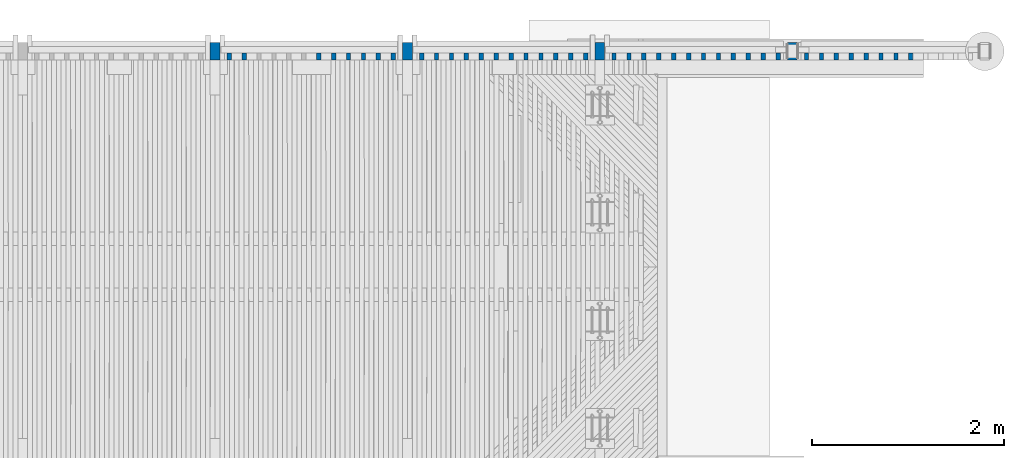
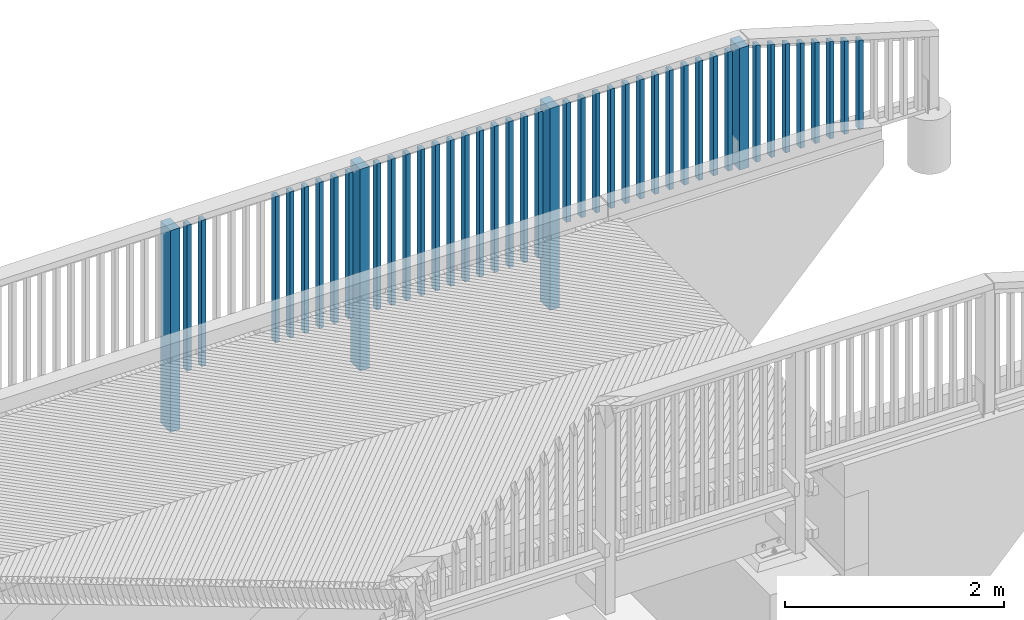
# One storey, part 11 of 52: 44 columns.
"""IFC2X3 building model written with IfcOpenShell, lengths in millimetres."""

from ifc_helpers import new_model, si_unit, frame, origin_with_axes, place, context, subcontext, project, spatial, faceted_brep, material, type_object, element, save


model = new_model("IFC2X3")

# Units and contexts
model_context = context("Model", 3, precision=1e-05, world=origin_with_axes())
body_context = subcontext(model_context, "Body", "Model", "MODEL_VIEW")
ifc_project = project(units=[si_unit("LENGTHUNIT", "METRE", prefix="MILLI"), si_unit("AREAUNIT", "SQUARE_METRE"), si_unit("VOLUMEUNIT", "CUBIC_METRE"), si_unit("MASSUNIT", "GRAM", prefix="KILO"), si_unit("TIMEUNIT", "SECOND"), si_unit("PLANEANGLEUNIT", "RADIAN"), si_unit("SOLIDANGLEUNIT", "STERADIAN"), si_unit("THERMODYNAMICTEMPERATUREUNIT", "DEGREE_CELSIUS"), si_unit("LUMINOUSINTENSITYUNIT", "LUMEN")], contexts=[model_context])

# Site, building, storey
site_placement = place(None, origin_with_axes())
site = spatial("IfcSite", under=ifc_project, at=site_placement, Name="Undefined", CompositionType="ELEMENT")
building_placement = place(site_placement, origin_with_axes())
building = spatial("IfcBuilding", under=site, at=building_placement, Name="Undefined", CompositionType="ELEMENT")
storey_placement = place(building_placement, origin_with_axes())
storey = spatial("IfcBuildingStorey", under=building, at=storey_placement, Name="Undefined", CompositionType="ELEMENT", Elevation=0.0)

# Columns
ifc_material = material(Name="TIMBER/Timber_Undefined")
column_type_1 = type_object("IfcColumnType", Name="180*100", PredefinedType="NOTDEFINED")
column_1_placement = place(storey_placement, frame((17999.9999992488, 4604.98790809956, 3128.37999999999), z_axis=(0.0, -1.0, 0.0), x_axis=(0.0, 0.0, 1.0)))
element("IfcColumn", 1, at=column_1_placement, inside=storey, type_object=column_type_1, material=ifc_material, Name="KAIDEPYLVÄS", ObjectType="180*100", context=body_context, shape_type="Brep", body=[
    faceted_brep([(-5.71000000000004, 50.0, -90.0), (-5.71000000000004, 50.0, 90.0), (1352.87649222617, 50.0, 90.0), (1352.87649222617, 50.0, -90.0), (-5.71000000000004, -50.0, 90.0), (1351.21940355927, -50.0, 90.0), (-5.71000000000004, -50.0, -90.0), (1351.21940355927, -50.0, -90.0)], [[[0, 1, 2, 3]], [[1, 4, 5, 2]], [[4, 6, 7, 5]], [[6, 0, 3, 7]], [[5, 7, 3, 2]], [[6, 4, 1, 0]]]),
])
for number, where, z_axis, x_axis in (
    (2, (16000.0000678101, 4604.98790809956, 2260.26004297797), (0.0, -1.0, 0.0), (0.0, 0.0, 1.0)),
    (3, (14000.0000678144, 4604.98790809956, 2283.46176690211), (0.0, -1.0, 0.0), (0.0, 0.0, 1.0)),
    (4, (12000.0000678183, 4604.98790809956, 2300.03388065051), (0.0, -1.0, 0.0), (0.0, 0.0, 1.0)),
):
    element("IfcColumn", number, at=place(storey_placement, frame(where, z_axis=z_axis, x_axis=x_axis)), inside=storey, type_object=column_type_1, material=ifc_material, Name="KAIDEPYLVÄS", ObjectType="180*100", context=body_context, shape_type="Brep", body=[
        faceted_brep([(0.0, 50.0, -90.0), (0.0, 50.0, 90.0), (2250.0, 50.0, 90.0), (2250.0, 50.0, -90.0), (0.0, -50.0, 90.0), (2250.0, -50.0, 90.0), (0.0, -50.0, -90.0), (2250.0, -50.0, -90.0)], [[[0, 1, 2, 3]], [[1, 4, 5, 2]], [[4, 6, 7, 5]], [[6, 0, 3, 7]], [[5, 7, 3, 2]], [[6, 4, 1, 0]]]),
    ])
column_type_2 = type_object("IfcColumnType", Name="70*45", PredefinedType="NOTDEFINED")
column_2_placement = place(storey_placement, frame((18147.4999992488, 4549.98790809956, 3079.15), z_axis=(0.0, 1.0, 0.0), x_axis=(0.0, 0.0, 1.0)))
element("IfcColumn", 5, at=column_2_placement, inside=storey, type_object=column_type_2, material=ifc_material, Name="BEAM", ObjectType="70*45", context=body_context, shape_type="Brep", body=[
    faceted_brep([(68.7510555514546, 22.5, -35.0), (68.7510555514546, 22.5, 35.0), (1362.51131766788, 22.5, 35.0), (1362.51131766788, 22.5, -35.0), (69.4380529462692, -22.5, 35.0), (1375.94682334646, -22.5, 35.0), (69.4380529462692, -22.5, -35.0), (1375.94682334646, -22.5, -35.0)], [[[0, 1, 2, 3]], [[1, 4, 5, 2]], [[4, 6, 7, 5]], [[6, 0, 3, 7]], [[5, 7, 3, 2]], [[6, 4, 1, 0]]]),
])
column_3_placement = place(storey_placement, frame((18302.4999992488, 4549.98790809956, 3079.15), z_axis=(0.0, 1.0, 0.0), x_axis=(0.0, 0.0, 1.0)))
element("IfcColumn", 6, at=column_3_placement, inside=storey, type_object=column_type_2, material=ifc_material, Name="BEAM", ObjectType="70*45", context=body_context, shape_type="Brep", body=[
    faceted_brep([(66.3847311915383, 22.5, -35.0), (66.3847311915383, 22.5, 35.0), (1316.23346477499, 22.5, 35.0), (1316.23346477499, 22.5, -35.0), (67.0717285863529, -22.5, 35.0), (1329.66897045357, -22.5, 35.0), (67.0717285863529, -22.5, -35.0), (1329.66897045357, -22.5, -35.0)], [[[0, 1, 2, 3]], [[1, 4, 5, 2]], [[4, 6, 7, 5]], [[6, 0, 3, 7]], [[5, 7, 3, 2]], [[6, 4, 1, 0]]]),
])
column_4_placement = place(storey_placement, frame((18457.4999992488, 4549.98790809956, 3079.15), z_axis=(0.0, 1.0, 0.0), x_axis=(0.0, 0.0, 1.0)))
element("IfcColumn", 7, at=column_4_placement, inside=storey, type_object=column_type_2, material=ifc_material, Name="BEAM", ObjectType="70*45", context=body_context, shape_type="Brep", body=[
    faceted_brep([(64.0184068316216, 22.5, -35.0), (64.0184068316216, 22.5, 35.0), (1269.95561188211, 22.5, 35.0), (1269.95561188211, 22.5, -35.0), (64.7054042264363, -22.5, 35.0), (1283.39111756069, -22.5, 35.0), (64.7054042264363, -22.5, -35.0), (1283.39111756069, -22.5, -35.0)], [[[0, 1, 2, 3]], [[1, 4, 5, 2]], [[4, 6, 7, 5]], [[6, 0, 3, 7]], [[5, 7, 3, 2]], [[6, 4, 1, 0]]]),
])
column_5_placement = place(storey_placement, frame((18612.4999992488, 4549.98790809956, 3079.15), z_axis=(0.0, 1.0, 0.0), x_axis=(0.0, 0.0, 1.0)))
element("IfcColumn", 8, at=column_5_placement, inside=storey, type_object=column_type_2, material=ifc_material, Name="BEAM", ObjectType="70*45", context=body_context, shape_type="Brep", body=[
    faceted_brep([(61.6520824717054, 22.5, -35.0), (61.6520824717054, 22.5, 35.0), (1223.67775898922, 22.5, 35.0), (1223.67775898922, 22.5, -35.0), (62.3390798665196, -22.5, 35.0), (1237.1132646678, -22.5, 35.0), (62.3390798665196, -22.5, -35.0), (1237.1132646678, -22.5, -35.0)], [[[0, 1, 2, 3]], [[1, 4, 5, 2]], [[4, 6, 7, 5]], [[6, 0, 3, 7]], [[5, 7, 3, 2]], [[6, 4, 1, 0]]]),
])
column_6_placement = place(storey_placement, frame((18767.4999992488, 4549.98790809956, 3079.15), z_axis=(0.0, 1.0, 0.0), x_axis=(0.0, 0.0, 1.0)))
element("IfcColumn", 9, at=column_6_placement, inside=storey, type_object=column_type_2, material=ifc_material, Name="BEAM", ObjectType="70*45", context=body_context, shape_type="Brep", body=[
    faceted_brep([(59.2857581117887, 22.5, -35.0), (59.2857581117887, 22.5, 35.0), (1177.39990609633, 22.5, 35.0), (1177.39990609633, 22.5, -35.0), (59.9727555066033, -22.5, 35.0), (1190.83541177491, -22.5, 35.0), (59.9727555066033, -22.5, -35.0), (1190.83541177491, -22.5, -35.0)], [[[0, 1, 2, 3]], [[1, 4, 5, 2]], [[4, 6, 7, 5]], [[6, 0, 3, 7]], [[5, 7, 3, 2]], [[6, 4, 1, 0]]]),
])
column_7_placement = place(storey_placement, frame((18922.4999992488, 4549.98790809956, 3079.15), z_axis=(0.0, 1.0, 0.0), x_axis=(0.0, 0.0, 1.0)))
element("IfcColumn", 10, at=column_7_placement, inside=storey, type_object=column_type_2, material=ifc_material, Name="BEAM", ObjectType="70*45", context=body_context, shape_type="Brep", body=[
    faceted_brep([(56.9194337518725, 22.5, -35.0), (56.9194337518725, 22.5, 35.0), (1131.12205320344, 22.5, 35.0), (1131.12205320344, 22.5, -35.0), (57.6064311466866, -22.5, 35.0), (1144.55755888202, -22.5, 35.0), (57.6064311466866, -22.5, -35.0), (1144.55755888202, -22.5, -35.0)], [[[0, 1, 2, 3]], [[1, 4, 5, 2]], [[4, 6, 7, 5]], [[6, 0, 3, 7]], [[5, 7, 3, 2]], [[6, 4, 1, 0]]]),
])
column_8_placement = place(storey_placement, frame((19077.4999992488, 4549.98790809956, 3079.15), z_axis=(0.0, 1.0, 0.0), x_axis=(0.0, 0.0, 1.0)))
element("IfcColumn", 11, at=column_8_placement, inside=storey, type_object=column_type_2, material=ifc_material, Name="BEAM", ObjectType="70*45", context=body_context, shape_type="Brep", body=[
    faceted_brep([(54.5531093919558, 22.5, -35.0), (54.5531093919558, 22.5, 35.0), (1084.84420031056, 22.5, 35.0), (1084.84420031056, 22.5, -35.0), (55.2401067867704, -22.5, 35.0), (1098.27970598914, -22.5, 35.0), (55.2401067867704, -22.5, -35.0), (1098.27970598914, -22.5, -35.0)], [[[0, 1, 2, 3]], [[1, 4, 5, 2]], [[4, 6, 7, 5]], [[6, 0, 3, 7]], [[5, 7, 3, 2]], [[6, 4, 1, 0]]]),
])
column_9_placement = place(storey_placement, frame((19232.4999992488, 4549.98790809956, 3079.15), z_axis=(0.0, 1.0, 0.0), x_axis=(0.0, 0.0, 1.0)))
element("IfcColumn", 12, at=column_9_placement, inside=storey, type_object=column_type_2, material=ifc_material, Name="BEAM", ObjectType="70*45", context=body_context, shape_type="Brep", body=[
    faceted_brep([(52.1867850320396, 22.5, -35.0), (52.1867850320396, 22.5, 35.0), (1038.56634741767, 22.5, 35.0), (1038.56634741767, 22.5, -35.0), (52.8737824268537, -22.5, 35.0), (1052.00185309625, -22.5, 35.0), (52.8737824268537, -22.5, -35.0), (1052.00185309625, -22.5, -35.0)], [[[0, 1, 2, 3]], [[1, 4, 5, 2]], [[4, 6, 7, 5]], [[6, 0, 3, 7]], [[5, 7, 3, 2]], [[6, 4, 1, 0]]]),
])
column_10_placement = place(storey_placement, frame((16147.4999992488, 4549.98790809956, 3109.68000000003), z_axis=(0.0, 1.0, 0.0), x_axis=(0.0, 0.0, 1.0)))
element("IfcColumn", 13, at=column_10_placement, inside=storey, type_object=column_type_2, material=ifc_material, Name="BEAM", ObjectType="70*45", context=body_context, shape_type="Brep", body=[
    faceted_brep([(68.7510555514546, 22.5, -35.0), (68.7510555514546, 22.5, 35.0), (1398.75105555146, 22.5, 35.0), (1398.75105555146, 22.5, -35.0), (69.4380529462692, -22.5, 35.0), (1399.43805294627, -22.5, 35.0), (69.4380529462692, -22.5, -35.0), (1399.43805294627, -22.5, -35.0)], [[[0, 1, 2, 3]], [[1, 4, 5, 2]], [[4, 6, 7, 5]], [[6, 0, 3, 7]], [[5, 7, 3, 2]], [[6, 4, 1, 0]]]),
])
column_11_placement = place(storey_placement, frame((16302.4999992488, 4549.98790809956, 3109.68000000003), z_axis=(0.0, 1.0, 0.0), x_axis=(0.0, 0.0, 1.0)))
element("IfcColumn", 14, at=column_11_placement, inside=storey, type_object=column_type_2, material=ifc_material, Name="BEAM", ObjectType="70*45", context=body_context, shape_type="Brep", body=[
    faceted_brep([(66.3847311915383, 22.5, -35.0), (66.3847311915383, 22.5, 35.0), (1396.38473119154, 22.5, 35.0), (1396.38473119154, 22.5, -35.0), (67.0717285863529, -22.5, 35.0), (1397.07172858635, -22.5, 35.0), (67.0717285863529, -22.5, -35.0), (1397.07172858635, -22.5, -35.0)], [[[0, 1, 2, 3]], [[1, 4, 5, 2]], [[4, 6, 7, 5]], [[6, 0, 3, 7]], [[5, 7, 3, 2]], [[6, 4, 1, 0]]]),
])
column_12_placement = place(storey_placement, frame((16457.4999992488, 4549.98790809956, 3109.68000000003), z_axis=(0.0, 1.0, 0.0), x_axis=(0.0, 0.0, 1.0)))
element("IfcColumn", 15, at=column_12_placement, inside=storey, type_object=column_type_2, material=ifc_material, Name="BEAM", ObjectType="70*45", context=body_context, shape_type="Brep", body=[
    faceted_brep([(64.0184068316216, 22.5, -35.0), (64.0184068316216, 22.5, 35.0), (1394.01840683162, 22.5, 35.0), (1394.01840683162, 22.5, -35.0), (64.7054042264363, -22.5, 35.0), (1394.70540422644, -22.5, 35.0), (64.7054042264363, -22.5, -35.0), (1394.70540422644, -22.5, -35.0)], [[[0, 1, 2, 3]], [[1, 4, 5, 2]], [[4, 6, 7, 5]], [[6, 0, 3, 7]], [[5, 7, 3, 2]], [[6, 4, 1, 0]]]),
])
column_13_placement = place(storey_placement, frame((16612.4999992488, 4549.98790809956, 3109.68000000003), z_axis=(0.0, 1.0, 0.0), x_axis=(0.0, 0.0, 1.0)))
element("IfcColumn", 16, at=column_13_placement, inside=storey, type_object=column_type_2, material=ifc_material, Name="BEAM", ObjectType="70*45", context=body_context, shape_type="Brep", body=[
    faceted_brep([(61.6520824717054, 22.5, -35.0), (61.6520824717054, 22.5, 35.0), (1391.65208247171, 22.5, 35.0), (1391.65208247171, 22.5, -35.0), (62.3390798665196, -22.5, 35.0), (1392.33907986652, -22.5, 35.0), (62.3390798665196, -22.5, -35.0), (1392.33907986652, -22.5, -35.0)], [[[0, 1, 2, 3]], [[1, 4, 5, 2]], [[4, 6, 7, 5]], [[6, 0, 3, 7]], [[5, 7, 3, 2]], [[6, 4, 1, 0]]]),
])
column_14_placement = place(storey_placement, frame((16767.4999992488, 4549.98790809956, 3109.68000000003), z_axis=(0.0, 1.0, 0.0), x_axis=(0.0, 0.0, 1.0)))
element("IfcColumn", 17, at=column_14_placement, inside=storey, type_object=column_type_2, material=ifc_material, Name="BEAM", ObjectType="70*45", context=body_context, shape_type="Brep", body=[
    faceted_brep([(59.2857581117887, 22.5, -35.0), (59.2857581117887, 22.5, 35.0), (1389.28575811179, 22.5, 35.0), (1389.28575811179, 22.5, -35.0), (59.9727555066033, -22.5, 35.0), (1389.97275550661, -22.5, 35.0), (59.9727555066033, -22.5, -35.0), (1389.97275550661, -22.5, -35.0)], [[[0, 1, 2, 3]], [[1, 4, 5, 2]], [[4, 6, 7, 5]], [[6, 0, 3, 7]], [[5, 7, 3, 2]], [[6, 4, 1, 0]]]),
])
column_15_placement = place(storey_placement, frame((16922.4999992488, 4549.98790809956, 3109.68000000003), z_axis=(0.0, 1.0, 0.0), x_axis=(0.0, 0.0, 1.0)))
element("IfcColumn", 18, at=column_15_placement, inside=storey, type_object=column_type_2, material=ifc_material, Name="BEAM", ObjectType="70*45", context=body_context, shape_type="Brep", body=[
    faceted_brep([(56.9194337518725, 22.5, -35.0), (56.9194337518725, 22.5, 35.0), (1386.91943375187, 22.5, 35.0), (1386.91943375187, 22.5, -35.0), (57.6064311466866, -22.5, 35.0), (1387.60643114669, -22.5, 35.0), (57.6064311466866, -22.5, -35.0), (1387.60643114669, -22.5, -35.0)], [[[0, 1, 2, 3]], [[1, 4, 5, 2]], [[4, 6, 7, 5]], [[6, 0, 3, 7]], [[5, 7, 3, 2]], [[6, 4, 1, 0]]]),
])
column_16_placement = place(storey_placement, frame((17077.4999992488, 4549.98790809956, 3109.68000000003), z_axis=(0.0, 1.0, 0.0), x_axis=(0.0, 0.0, 1.0)))
element("IfcColumn", 19, at=column_16_placement, inside=storey, type_object=column_type_2, material=ifc_material, Name="BEAM", ObjectType="70*45", context=body_context, shape_type="Brep", body=[
    faceted_brep([(54.5531093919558, 22.5, -35.0), (54.5531093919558, 22.5, 35.0), (1384.55310939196, 22.5, 35.0), (1384.55310939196, 22.5, -35.0), (55.2401067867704, -22.5, 35.0), (1385.24010678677, -22.5, 35.0), (55.2401067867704, -22.5, -35.0), (1385.24010678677, -22.5, -35.0)], [[[0, 1, 2, 3]], [[1, 4, 5, 2]], [[4, 6, 7, 5]], [[6, 0, 3, 7]], [[5, 7, 3, 2]], [[6, 4, 1, 0]]]),
])
column_17_placement = place(storey_placement, frame((17232.4999992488, 4549.98790809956, 3109.68000000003), z_axis=(0.0, 1.0, 0.0), x_axis=(0.0, 0.0, 1.0)))
element("IfcColumn", 20, at=column_17_placement, inside=storey, type_object=column_type_2, material=ifc_material, Name="BEAM", ObjectType="70*45", context=body_context, shape_type="Brep", body=[
    faceted_brep([(52.1867850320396, 22.5, -35.0), (52.1867850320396, 22.5, 35.0), (1382.18678503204, 22.5, 35.0), (1382.18678503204, 22.5, -35.0), (52.8737824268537, -22.5, 35.0), (1382.87378242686, -22.5, 35.0), (52.8737824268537, -22.5, -35.0), (1382.87378242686, -22.5, -35.0)], [[[0, 1, 2, 3]], [[1, 4, 5, 2]], [[4, 6, 7, 5]], [[6, 0, 3, 7]], [[5, 7, 3, 2]], [[6, 4, 1, 0]]]),
])
column_18_placement = place(storey_placement, frame((17387.4999992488, 4549.98790809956, 3109.68000000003), z_axis=(0.0, 1.0, 0.0), x_axis=(0.0, 0.0, 1.0)))
element("IfcColumn", 21, at=column_18_placement, inside=storey, type_object=column_type_2, material=ifc_material, Name="BEAM", ObjectType="70*45", context=body_context, shape_type="Brep", body=[
    faceted_brep([(49.8204606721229, 22.5, -35.0), (49.8204606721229, 22.5, 35.0), (1379.82046067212, 22.5, 35.0), (1379.82046067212, 22.5, -35.0), (50.5074580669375, -22.5, 35.0), (1380.50745806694, -22.5, 35.0), (50.5074580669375, -22.5, -35.0), (1380.50745806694, -22.5, -35.0)], [[[0, 1, 2, 3]], [[1, 4, 5, 2]], [[4, 6, 7, 5]], [[6, 0, 3, 7]], [[5, 7, 3, 2]], [[6, 4, 1, 0]]]),
])
column_19_placement = place(storey_placement, frame((17542.4999992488, 4549.98790809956, 3109.68000000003), z_axis=(0.0, 1.0, 0.0), x_axis=(0.0, 0.0, 1.0)))
element("IfcColumn", 22, at=column_19_placement, inside=storey, type_object=column_type_2, material=ifc_material, Name="BEAM", ObjectType="70*45", context=body_context, shape_type="Brep", body=[
    faceted_brep([(47.4541363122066, 22.5, -35.0), (47.4541363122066, 22.5, 35.0), (1377.45413631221, 22.5, 35.0), (1377.45413631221, 22.5, -35.0), (48.1411337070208, -22.5, 35.0), (1378.14113370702, -22.5, 35.0), (48.1411337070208, -22.5, -35.0), (1378.14113370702, -22.5, -35.0)], [[[0, 1, 2, 3]], [[1, 4, 5, 2]], [[4, 6, 7, 5]], [[6, 0, 3, 7]], [[5, 7, 3, 2]], [[6, 4, 1, 0]]]),
])
column_20_placement = place(storey_placement, frame((17697.4999992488, 4549.98790809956, 3109.68000000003), z_axis=(0.0, 1.0, 0.0), x_axis=(0.0, 0.0, 1.0)))
element("IfcColumn", 23, at=column_20_placement, inside=storey, type_object=column_type_2, material=ifc_material, Name="BEAM", ObjectType="70*45", context=body_context, shape_type="Brep", body=[
    faceted_brep([(45.0878119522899, 22.5, -35.0), (45.0878119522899, 22.5, 35.0), (1375.08781195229, 22.5, 35.0), (1375.08781195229, 22.5, -35.0), (45.7748093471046, -22.5, 35.0), (1375.77480934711, -22.5, 35.0), (45.7748093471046, -22.5, -35.0), (1375.77480934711, -22.5, -35.0)], [[[0, 1, 2, 3]], [[1, 4, 5, 2]], [[4, 6, 7, 5]], [[6, 0, 3, 7]], [[5, 7, 3, 2]], [[6, 4, 1, 0]]]),
])
column_21_placement = place(storey_placement, frame((17852.4999992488, 4549.98790809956, 3109.68000000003), z_axis=(0.0, 1.0, 0.0), x_axis=(0.0, 0.0, 1.0)))
element("IfcColumn", 24, at=column_21_placement, inside=storey, type_object=column_type_2, material=ifc_material, Name="BEAM", ObjectType="70*45", context=body_context, shape_type="Brep", body=[
    faceted_brep([(42.7214875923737, 22.5, -35.0), (42.7214875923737, 22.5, 35.0), (1372.72148759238, 22.5, 35.0), (1372.72148759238, 22.5, -35.0), (43.4084849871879, -22.5, 35.0), (1373.40848498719, -22.5, 35.0), (43.4084849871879, -22.5, -35.0), (1373.40848498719, -22.5, -35.0)], [[[0, 1, 2, 3]], [[1, 4, 5, 2]], [[4, 6, 7, 5]], [[6, 0, 3, 7]], [[5, 7, 3, 2]], [[6, 4, 1, 0]]]),
])
column_22_placement = place(storey_placement, frame((15852.5000007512, 4549.98790809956, 3109.68000000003), z_axis=(0.0, 1.0, 0.0), x_axis=(0.0, 0.0, 1.0)))
element("IfcColumn", 25, at=column_22_placement, inside=storey, type_object=column_type_2, material=ifc_material, Name="BEAM", ObjectType="70*45", context=body_context, shape_type="Brep", body=[
    faceted_brep([(-228.509317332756, 22.5, -35.0), (-228.509317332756, 22.5, 35.0), (1401.49590164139, 22.5, 35.0), (1401.49590164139, 22.5, -35.0), (-227.959802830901, -22.5, 35.0), (1402.04541614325, -22.5, 35.0), (-227.959802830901, -22.5, -35.0), (1402.04541614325, -22.5, -35.0)], [[[0, 1, 2, 3]], [[1, 4, 5, 2]], [[4, 6, 7, 5]], [[6, 0, 3, 7]], [[5, 7, 3, 2]], [[6, 4, 1, 0]]]),
])
column_23_placement = place(storey_placement, frame((15697.5000007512, 4549.98790809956, 3109.68000000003), z_axis=(0.0, 1.0, 0.0), x_axis=(0.0, 0.0, 1.0)))
element("IfcColumn", 26, at=column_23_placement, inside=storey, type_object=column_type_2, material=ifc_material, Name="BEAM", ObjectType="70*45", context=body_context, shape_type="Brep", body=[
    faceted_brep([(-226.616545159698, 22.5, -35.0), (-226.616545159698, 22.5, 35.0), (1403.38867381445, 22.5, 35.0), (1403.38867381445, 22.5, -35.0), (-226.067030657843, -22.5, 35.0), (1403.93818831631, -22.5, 35.0), (-226.067030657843, -22.5, -35.0), (1403.93818831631, -22.5, -35.0)], [[[0, 1, 2, 3]], [[1, 4, 5, 2]], [[4, 6, 7, 5]], [[6, 0, 3, 7]], [[5, 7, 3, 2]], [[6, 4, 1, 0]]]),
])
column_24_placement = place(storey_placement, frame((15542.5000007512, 4549.98790809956, 3109.68000000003), z_axis=(0.0, 1.0, 0.0), x_axis=(0.0, 0.0, 1.0)))
element("IfcColumn", 27, at=column_24_placement, inside=storey, type_object=column_type_2, material=ifc_material, Name="BEAM", ObjectType="70*45", context=body_context, shape_type="Brep", body=[
    faceted_brep([(-224.72377298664, 22.5, -35.0), (-224.72377298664, 22.5, 35.0), (1405.28144598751, 22.5, 35.0), (1405.28144598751, 22.5, -35.0), (-224.174258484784, -22.5, 35.0), (1405.83096048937, -22.5, 35.0), (-224.174258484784, -22.5, -35.0), (1405.83096048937, -22.5, -35.0)], [[[0, 1, 2, 3]], [[1, 4, 5, 2]], [[4, 6, 7, 5]], [[6, 0, 3, 7]], [[5, 7, 3, 2]], [[6, 4, 1, 0]]]),
])
column_25_placement = place(storey_placement, frame((15387.5000007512, 4549.98790809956, 3109.68000000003), z_axis=(0.0, 1.0, 0.0), x_axis=(0.0, 0.0, 1.0)))
element("IfcColumn", 28, at=column_25_placement, inside=storey, type_object=column_type_2, material=ifc_material, Name="BEAM", ObjectType="70*45", context=body_context, shape_type="Brep", body=[
    faceted_brep([(-222.831000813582, 22.5, -35.0), (-222.831000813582, 22.5, 35.0), (1407.17421816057, 22.5, 35.0), (1407.17421816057, 22.5, -35.0), (-222.281486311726, -22.5, 35.0), (1407.72373266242, -22.5, 35.0), (-222.281486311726, -22.5, -35.0), (1407.72373266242, -22.5, -35.0)], [[[0, 1, 2, 3]], [[1, 4, 5, 2]], [[4, 6, 7, 5]], [[6, 0, 3, 7]], [[5, 7, 3, 2]], [[6, 4, 1, 0]]]),
])
column_26_placement = place(storey_placement, frame((15232.5000007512, 4549.98790809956, 3109.68000000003), z_axis=(0.0, 1.0, 0.0), x_axis=(0.0, 0.0, 1.0)))
element("IfcColumn", 29, at=column_26_placement, inside=storey, type_object=column_type_2, material=ifc_material, Name="BEAM", ObjectType="70*45", context=body_context, shape_type="Brep", body=[
    faceted_brep([(-220.938228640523, 22.5, -35.0), (-220.938228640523, 22.5, 35.0), (1409.06699033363, 22.5, 35.0), (1409.06699033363, 22.5, -35.0), (-220.388714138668, -22.5, 35.0), (1409.61650483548, -22.5, 35.0), (-220.388714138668, -22.5, -35.0), (1409.61650483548, -22.5, -35.0)], [[[0, 1, 2, 3]], [[1, 4, 5, 2]], [[4, 6, 7, 5]], [[6, 0, 3, 7]], [[5, 7, 3, 2]], [[6, 4, 1, 0]]]),
])
column_27_placement = place(storey_placement, frame((15077.5000007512, 4549.98790809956, 3109.68000000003), z_axis=(0.0, 1.0, 0.0), x_axis=(0.0, 0.0, 1.0)))
element("IfcColumn", 30, at=column_27_placement, inside=storey, type_object=column_type_2, material=ifc_material, Name="BEAM", ObjectType="70*45", context=body_context, shape_type="Brep", body=[
    faceted_brep([(-219.045456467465, 22.5, -35.0), (-219.045456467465, 22.5, 35.0), (1410.95976250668, 22.5, 35.0), (1410.95976250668, 22.5, -35.0), (-218.495941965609, -22.5, 35.0), (1411.50927700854, -22.5, 35.0), (-218.495941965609, -22.5, -35.0), (1411.50927700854, -22.5, -35.0)], [[[0, 1, 2, 3]], [[1, 4, 5, 2]], [[4, 6, 7, 5]], [[6, 0, 3, 7]], [[5, 7, 3, 2]], [[6, 4, 1, 0]]]),
])
column_28_placement = place(storey_placement, frame((14922.5000007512, 4549.98790809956, 3109.68000000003), z_axis=(0.0, 1.0, 0.0), x_axis=(0.0, 0.0, 1.0)))
element("IfcColumn", 31, at=column_28_placement, inside=storey, type_object=column_type_2, material=ifc_material, Name="BEAM", ObjectType="70*45", context=body_context, shape_type="Brep", body=[
    faceted_brep([(-217.152684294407, 22.5, -35.0), (-217.152684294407, 22.5, 35.0), (1412.85253467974, 22.5, 35.0), (1412.85253467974, 22.5, -35.0), (-216.603169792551, -22.5, 35.0), (1413.4020491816, -22.5, 35.0), (-216.603169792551, -22.5, -35.0), (1413.4020491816, -22.5, -35.0)], [[[0, 1, 2, 3]], [[1, 4, 5, 2]], [[4, 6, 7, 5]], [[6, 0, 3, 7]], [[5, 7, 3, 2]], [[6, 4, 1, 0]]]),
])
column_29_placement = place(storey_placement, frame((14767.5000007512, 4549.98790809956, 3109.68000000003), z_axis=(0.0, 1.0, 0.0), x_axis=(0.0, 0.0, 1.0)))
element("IfcColumn", 32, at=column_29_placement, inside=storey, type_object=column_type_2, material=ifc_material, Name="BEAM", ObjectType="70*45", context=body_context, shape_type="Brep", body=[
    faceted_brep([(-215.259912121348, 22.5, -35.0), (-215.259912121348, 22.5, 35.0), (1414.7453068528, 22.5, 35.0), (1414.7453068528, 22.5, -35.0), (-214.710397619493, -22.5, 35.0), (1415.29482135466, -22.5, 35.0), (-214.710397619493, -22.5, -35.0), (1415.29482135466, -22.5, -35.0)], [[[0, 1, 2, 3]], [[1, 4, 5, 2]], [[4, 6, 7, 5]], [[6, 0, 3, 7]], [[5, 7, 3, 2]], [[6, 4, 1, 0]]]),
])
column_30_placement = place(storey_placement, frame((14612.5000007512, 4549.98790809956, 3109.68000000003), z_axis=(0.0, 1.0, 0.0), x_axis=(0.0, 0.0, 1.0)))
element("IfcColumn", 33, at=column_30_placement, inside=storey, type_object=column_type_2, material=ifc_material, Name="BEAM", ObjectType="70*45", context=body_context, shape_type="Brep", body=[
    faceted_brep([(-213.36713994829, 22.5, -35.0), (-213.36713994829, 22.5, 35.0), (1416.63807902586, 22.5, 35.0), (1416.63807902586, 22.5, -35.0), (-212.817625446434, -22.5, 35.0), (1417.18759352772, -22.5, 35.0), (-212.817625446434, -22.5, -35.0), (1417.18759352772, -22.5, -35.0)], [[[0, 1, 2, 3]], [[1, 4, 5, 2]], [[4, 6, 7, 5]], [[6, 0, 3, 7]], [[5, 7, 3, 2]], [[6, 4, 1, 0]]]),
])
column_31_placement = place(storey_placement, frame((14457.5000007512, 4549.98790809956, 3109.68000000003), z_axis=(0.0, 1.0, 0.0), x_axis=(0.0, 0.0, 1.0)))
element("IfcColumn", 34, at=column_31_placement, inside=storey, type_object=column_type_2, material=ifc_material, Name="BEAM", ObjectType="70*45", context=body_context, shape_type="Brep", body=[
    faceted_brep([(-211.474367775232, 22.5, -35.0), (-211.474367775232, 22.5, 35.0), (1418.53085119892, 22.5, 35.0), (1418.53085119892, 22.5, -35.0), (-210.924853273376, -22.5, 35.0), (1419.08036570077, -22.5, 35.0), (-210.924853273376, -22.5, -35.0), (1419.08036570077, -22.5, -35.0)], [[[0, 1, 2, 3]], [[1, 4, 5, 2]], [[4, 6, 7, 5]], [[6, 0, 3, 7]], [[5, 7, 3, 2]], [[6, 4, 1, 0]]]),
])
column_32_placement = place(storey_placement, frame((14302.5000007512, 4549.98790809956, 3109.68000000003), z_axis=(0.0, 1.0, 0.0), x_axis=(0.0, 0.0, 1.0)))
element("IfcColumn", 35, at=column_32_placement, inside=storey, type_object=column_type_2, material=ifc_material, Name="BEAM", ObjectType="70*45", context=body_context, shape_type="Brep", body=[
    faceted_brep([(-209.581595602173, 22.5, -35.0), (-209.581595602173, 22.5, 35.0), (1420.42362337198, 22.5, 35.0), (1420.42362337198, 22.5, -35.0), (-209.032081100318, -22.5, 35.0), (1420.97313787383, -22.5, 35.0), (-209.032081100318, -22.5, -35.0), (1420.97313787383, -22.5, -35.0)], [[[0, 1, 2, 3]], [[1, 4, 5, 2]], [[4, 6, 7, 5]], [[6, 0, 3, 7]], [[5, 7, 3, 2]], [[6, 4, 1, 0]]]),
])
column_33_placement = place(storey_placement, frame((14147.5000007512, 4549.98790809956, 3109.68000000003), z_axis=(0.0, 1.0, 0.0), x_axis=(0.0, 0.0, 1.0)))
element("IfcColumn", 36, at=column_33_placement, inside=storey, type_object=column_type_2, material=ifc_material, Name="BEAM", ObjectType="70*45", context=body_context, shape_type="Brep", body=[
    faceted_brep([(-207.688823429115, 22.5, -35.0), (-207.688823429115, 22.5, 35.0), (1422.31639554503, 22.5, 35.0), (1422.31639554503, 22.5, -35.0), (-207.13930892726, -22.5, 35.0), (1422.86591004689, -22.5, 35.0), (-207.13930892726, -22.5, -35.0), (1422.86591004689, -22.5, -35.0)], [[[0, 1, 2, 3]], [[1, 4, 5, 2]], [[4, 6, 7, 5]], [[6, 0, 3, 7]], [[5, 7, 3, 2]], [[6, 4, 1, 0]]]),
])
column_34_placement = place(storey_placement, frame((13852.5000007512, 4549.98790809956, 3109.68000000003), z_axis=(0.0, 1.0, 0.0), x_axis=(0.0, 0.0, 1.0)))
element("IfcColumn", 37, at=column_34_placement, inside=storey, type_object=column_type_2, material=ifc_material, Name="BEAM", ObjectType="70*45", context=body_context, shape_type="Brep", body=[
    faceted_brep([(-205.566732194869, 22.5, -35.0), (-205.566732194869, 22.5, 35.0), (1424.43593041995, 22.5, 35.0), (1424.43593041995, 22.5, -35.0), (-205.174234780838, -22.5, 35.0), (1424.82842783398, -22.5, 35.0), (-205.174234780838, -22.5, -35.0), (1424.82842783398, -22.5, -35.0)], [[[0, 1, 2, 3]], [[1, 4, 5, 2]], [[4, 6, 7, 5]], [[6, 0, 3, 7]], [[5, 7, 3, 2]], [[6, 4, 1, 0]]]),
])
column_35_placement = place(storey_placement, frame((13697.5000007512, 4549.98790809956, 3109.68000000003), z_axis=(0.0, 1.0, 0.0), x_axis=(0.0, 0.0, 1.0)))
element("IfcColumn", 38, at=column_35_placement, inside=storey, type_object=column_type_2, material=ifc_material, Name="BEAM", ObjectType="70*45", context=body_context, shape_type="Brep", body=[
    faceted_brep([(-204.214796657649, 22.5, -35.0), (-204.214796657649, 22.5, 35.0), (1425.78786595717, 22.5, 35.0), (1425.78786595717, 22.5, -35.0), (-203.822299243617, -22.5, 35.0), (1426.1803633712, -22.5, 35.0), (-203.822299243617, -22.5, -35.0), (1426.1803633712, -22.5, -35.0)], [[[0, 1, 2, 3]], [[1, 4, 5, 2]], [[4, 6, 7, 5]], [[6, 0, 3, 7]], [[5, 7, 3, 2]], [[6, 4, 1, 0]]]),
])
column_36_placement = place(storey_placement, frame((13542.5000007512, 4549.98790809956, 3109.68000000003), z_axis=(0.0, 1.0, 0.0), x_axis=(0.0, 0.0, 1.0)))
element("IfcColumn", 39, at=column_36_placement, inside=storey, type_object=column_type_2, material=ifc_material, Name="BEAM", ObjectType="70*45", context=body_context, shape_type="Brep", body=[
    faceted_brep([(-202.862861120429, 22.5, -35.0), (-202.862861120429, 22.5, 35.0), (1427.13980149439, 22.5, 35.0), (1427.13980149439, 22.5, -35.0), (-202.470363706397, -22.5, 35.0), (1427.53229890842, -22.5, 35.0), (-202.470363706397, -22.5, -35.0), (1427.53229890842, -22.5, -35.0)], [[[0, 1, 2, 3]], [[1, 4, 5, 2]], [[4, 6, 7, 5]], [[6, 0, 3, 7]], [[5, 7, 3, 2]], [[6, 4, 1, 0]]]),
])
column_37_placement = place(storey_placement, frame((13387.5000007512, 4549.98790809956, 3109.68000000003), z_axis=(0.0, 1.0, 0.0), x_axis=(0.0, 0.0, 1.0)))
element("IfcColumn", 40, at=column_37_placement, inside=storey, type_object=column_type_2, material=ifc_material, Name="BEAM", ObjectType="70*45", context=body_context, shape_type="Brep", body=[
    faceted_brep([(-201.510925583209, 22.5, -35.0), (-201.510925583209, 22.5, 35.0), (1428.49173703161, 22.5, 35.0), (1428.49173703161, 22.5, -35.0), (-201.118428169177, -22.5, 35.0), (1428.88423444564, -22.5, 35.0), (-201.118428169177, -22.5, -35.0), (1428.88423444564, -22.5, -35.0)], [[[0, 1, 2, 3]], [[1, 4, 5, 2]], [[4, 6, 7, 5]], [[6, 0, 3, 7]], [[5, 7, 3, 2]], [[6, 4, 1, 0]]]),
])
column_38_placement = place(storey_placement, frame((13232.5000007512, 4549.98790809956, 3109.68000000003), z_axis=(0.0, 1.0, 0.0), x_axis=(0.0, 0.0, 1.0)))
element("IfcColumn", 41, at=column_38_placement, inside=storey, type_object=column_type_2, material=ifc_material, Name="BEAM", ObjectType="70*45", context=body_context, shape_type="Brep", body=[
    faceted_brep([(-200.158990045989, 22.5, -35.0), (-200.158990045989, 22.5, 35.0), (1429.84367256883, 22.5, 35.0), (1429.84367256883, 22.5, -35.0), (-199.766492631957, -22.5, 35.0), (1430.23616998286, -22.5, 35.0), (-199.766492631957, -22.5, -35.0), (1430.23616998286, -22.5, -35.0)], [[[0, 1, 2, 3]], [[1, 4, 5, 2]], [[4, 6, 7, 5]], [[6, 0, 3, 7]], [[5, 7, 3, 2]], [[6, 4, 1, 0]]]),
])
column_39_placement = place(storey_placement, frame((13077.5000007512, 4549.98790809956, 3109.68000000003), z_axis=(0.0, 1.0, 0.0), x_axis=(0.0, 0.0, 1.0)))
element("IfcColumn", 42, at=column_39_placement, inside=storey, type_object=column_type_2, material=ifc_material, Name="BEAM", ObjectType="70*45", context=body_context, shape_type="Brep", body=[
    faceted_brep([(-198.807054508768, 22.5, -35.0), (-198.807054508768, 22.5, 35.0), (1431.19560810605, 22.5, 35.0), (1431.19560810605, 22.5, -35.0), (-198.414557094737, -22.5, 35.0), (1431.58810552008, -22.5, 35.0), (-198.414557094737, -22.5, -35.0), (1431.58810552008, -22.5, -35.0)], [[[0, 1, 2, 3]], [[1, 4, 5, 2]], [[4, 6, 7, 5]], [[6, 0, 3, 7]], [[5, 7, 3, 2]], [[6, 4, 1, 0]]]),
])
column_40_placement = place(storey_placement, frame((12302.5000007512, 4549.98790809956, 3109.68000000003), z_axis=(0.0, 1.0, 0.0), x_axis=(0.0, 0.0, 1.0)))
element("IfcColumn", 43, at=column_40_placement, inside=storey, type_object=column_type_2, material=ifc_material, Name="BEAM", ObjectType="70*45", context=body_context, shape_type="Brep", body=[
    faceted_brep([(-192.047376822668, 22.5, -35.0), (-192.047376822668, 22.5, 35.0), (1437.95528579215, 22.5, 35.0), (1437.95528579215, 22.5, -35.0), (-191.654879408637, -22.5, 35.0), (1438.34778320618, -22.5, 35.0), (-191.654879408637, -22.5, -35.0), (1438.34778320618, -22.5, -35.0)], [[[0, 1, 2, 3]], [[1, 4, 5, 2]], [[4, 6, 7, 5]], [[6, 0, 3, 7]], [[5, 7, 3, 2]], [[6, 4, 1, 0]]]),
])
column_41_placement = place(storey_placement, frame((12147.5000007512, 4549.98790809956, 3109.68000000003), z_axis=(0.0, 1.0, 0.0), x_axis=(0.0, 0.0, 1.0)))
element("IfcColumn", 44, at=column_41_placement, inside=storey, type_object=column_type_2, material=ifc_material, Name="BEAM", ObjectType="70*45", context=body_context, shape_type="Brep", body=[
    faceted_brep([(-190.695441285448, 22.5, -35.0), (-190.695441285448, 22.5, 35.0), (1439.30722132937, 22.5, 35.0), (1439.30722132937, 22.5, -35.0), (-190.302943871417, -22.5, 35.0), (1439.6997187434, -22.5, 35.0), (-190.302943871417, -22.5, -35.0), (1439.6997187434, -22.5, -35.0)], [[[0, 1, 2, 3]], [[1, 4, 5, 2]], [[4, 6, 7, 5]], [[6, 0, 3, 7]], [[5, 7, 3, 2]], [[6, 4, 1, 0]]]),
])

save(model, "model.ifc")
